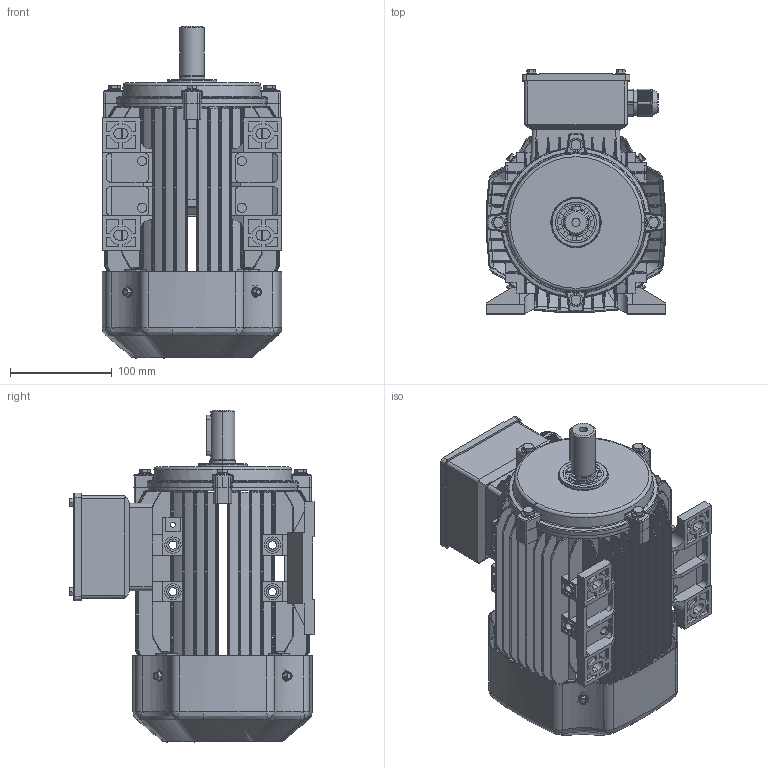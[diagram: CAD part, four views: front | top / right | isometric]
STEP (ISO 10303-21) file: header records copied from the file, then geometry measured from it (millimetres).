
FILE_DESCRIPTION (( 'STEP AP203' ), '1' );
FILE_NAME ('IE2-90S-B3.STEP', '2015-10-09T01:02:59', ( 'User' ), ( 'Microsoft' ), 'SwSTEP 2.0', 'SolidWorks 2014', '' );
FILE_SCHEMA (( 'CONFIG_CONTROL_DESIGN' ));
Products named in the file (1): IE2-90S-B3
Bounding box: 177 x 240.45 x 327 mm (x, y, z)
Surface area: 523837 mm2 (no closed solid volume)
Topology: 0 solids, 50 shells, 2817 faces, 8731 edges, 5832 vertices
Faces by surface type: plane 1474, cylinder 782, bspline 304, cone 136, torus 107, sphere 14
Entity records: 111368 total; most frequent: CARTESIAN_POINT 39312, ORIENTED_EDGE 14600, DIRECTION 13916, EDGE_CURVE 8731, VERTEX_POINT 5832, LINE 4644, VECTOR 4644, AXIS2_PLACEMENT_3D 4636
